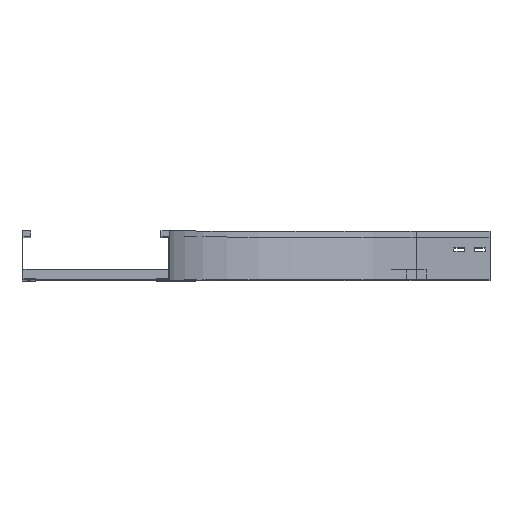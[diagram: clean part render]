
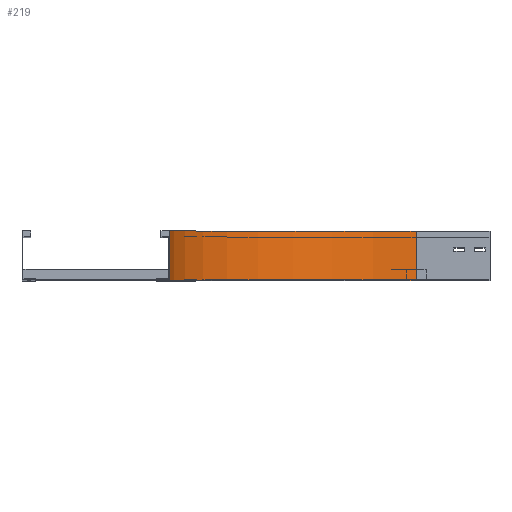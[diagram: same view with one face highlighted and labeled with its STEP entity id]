
A CAD part, top view. The second image highlights one B-rep face of the part: STEP entity #219.
In plain terms, the highlighted cylindrical face has radius 500 mm (diameter 1000 mm), a partial arc.
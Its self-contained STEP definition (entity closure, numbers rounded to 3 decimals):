
#219 = ADVANCED_FACE ( 'NONE', ( #2968 ), #656, .F. ) ;
#358 = CARTESIAN_POINT ( 'NONE',  ( 500., 0., -650. ) ) ;
#639 = DIRECTION ( 'NONE',  ( 0., -1., 0. ) ) ;
#656 = CYLINDRICAL_SURFACE ( 'NONE', #3240, 500. ) ;
#764 = CARTESIAN_POINT ( 'NONE',  ( 0., 100., -150. ) ) ;
#920 = VERTEX_POINT ( 'NONE', #1173 ) ;
#958 = DIRECTION ( 'NONE',  ( -1., 0., 0. ) ) ;
#1173 = CARTESIAN_POINT ( 'NONE',  ( 500., 0., -650. ) ) ;
#1293 = CARTESIAN_POINT ( 'NONE',  ( 500., 100., -150. ) ) ;
#1336 = LINE ( 'NONE', #358, #4173 ) ;
#1576 = DIRECTION ( 'NONE',  ( 0., -1., 0. ) ) ;
#1663 = CARTESIAN_POINT ( 'NONE',  ( 500., 0., -150. ) ) ;
#1719 = EDGE_CURVE ( 'NONE', #3827, #3710, #2315, .T. ) ;
#1818 = CIRCLE ( 'NONE', #1966, 500. ) ;
#1820 = AXIS2_PLACEMENT_3D ( 'NONE', #1293, #639, #958 ) ;
#1911 = ORIENTED_EDGE ( 'NONE', *, *, #2871, .F. ) ;
#1966 = AXIS2_PLACEMENT_3D ( 'NONE', #3429, #2387, #2428 ) ;
#1970 = VECTOR ( 'NONE', #4013, 1000. ) ;
#2315 = LINE ( 'NONE', #2670, #1970 ) ;
#2387 = DIRECTION ( 'NONE',  ( 0., -1., 0. ) ) ;
#2428 = DIRECTION ( 'NONE',  ( -1., 0., 0. ) ) ;
#2617 = DIRECTION ( 'NONE',  ( 0., 1., 0. ) ) ;
#2625 = DIRECTION ( 'NONE',  ( 0., 0., -1. ) ) ;
#2670 = CARTESIAN_POINT ( 'NONE',  ( 0., 0., -150. ) ) ;
#2871 = EDGE_CURVE ( 'NONE', #3710, #4216, #3346, .T. ) ;
#2968 = FACE_OUTER_BOUND ( 'NONE', #2981, .T. ) ;
#2981 = EDGE_LOOP ( 'NONE', ( #1911, #4249, #3122, #3809 ) ) ;
#3122 = ORIENTED_EDGE ( 'NONE', *, *, #3247, .T. ) ;
#3240 = AXIS2_PLACEMENT_3D ( 'NONE', #1663, #1576, #2625 ) ;
#3247 = EDGE_CURVE ( 'NONE', #3827, #920, #1818, .T. ) ;
#3346 = CIRCLE ( 'NONE', #1820, 500. ) ;
#3429 = CARTESIAN_POINT ( 'NONE',  ( 500., 0., -150. ) ) ;
#3528 = EDGE_CURVE ( 'NONE', #920, #4216, #1336, .T. ) ;
#3710 = VERTEX_POINT ( 'NONE', #764 ) ;
#3770 = CARTESIAN_POINT ( 'NONE',  ( 500., 100., -650. ) ) ;
#3796 = CARTESIAN_POINT ( 'NONE',  ( 0., 0., -150. ) ) ;
#3809 = ORIENTED_EDGE ( 'NONE', *, *, #3528, .T. ) ;
#3827 = VERTEX_POINT ( 'NONE', #3796 ) ;
#4013 = DIRECTION ( 'NONE',  ( 0., 1., 0. ) ) ;
#4173 = VECTOR ( 'NONE', #2617, 1000. ) ;
#4216 = VERTEX_POINT ( 'NONE', #3770 ) ;
#4249 = ORIENTED_EDGE ( 'NONE', *, *, #1719, .F. ) ;
